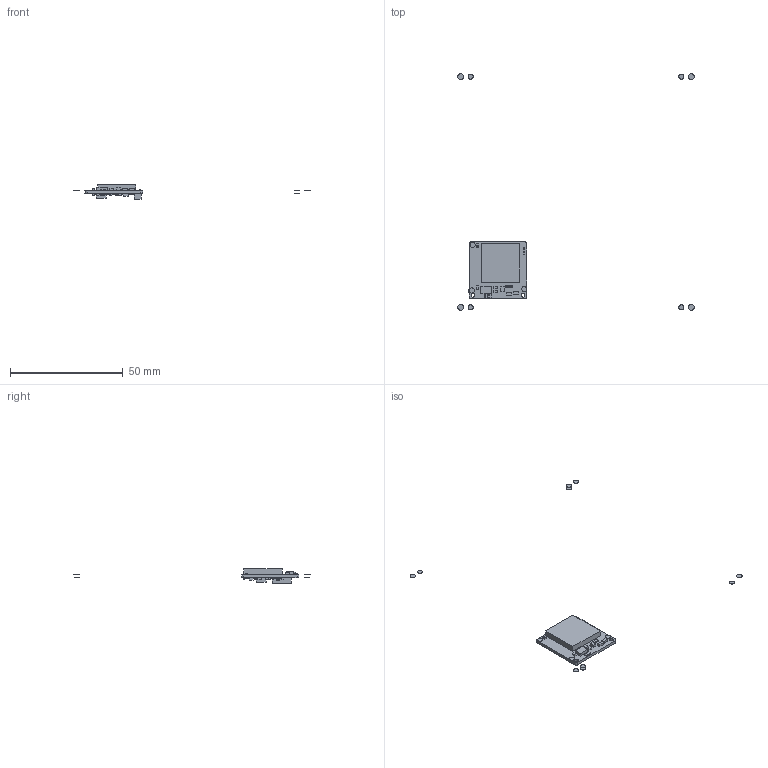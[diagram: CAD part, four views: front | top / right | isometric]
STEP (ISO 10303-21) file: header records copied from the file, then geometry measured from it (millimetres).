
FILE_DESCRIPTION(/* description */ ('PCB Design'),/* implementation_level */ '2;1');
FILE_NAME(/* name */ 'JnD_Hailo_R1',/* time_stamp */ '2023-11-13T16:44:10+02:00',/* author */ ('Roy K'),/* organization */ (''),/* preprocessor_version */ 'ST-DEVELOPER v16',/* originating_system */ 'allegro_17.2S083',/* authorisation */ '');
FILE_SCHEMA (('AUTOMOTIVE_DESIGN { 1 0 10303 214 3 1 1 }'));
Length unit declared in the file: millimetre
Products named in the file (20): JND_HAILO_R1; BOARD_OUTLINE; COMPONENTS; FID40; MU98K130; SOT-323; DF40HC-30DS-0P4V; IND_0402_NXP; DDC0006A; XAL4020; FBGA400_17X17_08; L0402; C0805; TPAD_020; USP-11B01; R0402; C0402; C0603; C0201; KC2520_2P5X2P0
Assembly tree (178 placements, depth 3):
  JND_HAILO_R1
    BOARD_OUTLINE
    COMPONENTS
      FID40  x12
      MU98K130  x4
      SOT-323  x2
      DF40HC-30DS-0P4V
      IND_0402_NXP  x6
      DDC0006A
      XAL4020
      FBGA400_17X17_08
      L0402
      C0805  x2
      TPAD_020
      USP-11B01
      R0402  x31
      C0402  x32
      C0603  x5
      C0201  x74
      KC2520_2P5X2P0
Bounding box: 104.72 x 104.72 x 6.49 mm (x, y, z)
Surface area: 2955.9 mm2 (no closed solid volume)
Topology: 0 solids, 177 shells, 1041 faces, 2241 edges, 1374 vertices
Faces by surface type: plane 997, cylinder 44
Entity records: 4818 total; most frequent: DIRECTION 644, AXIS2_PLACEMENT_3D 503, ORIENTED_EDGE 474, CARTESIAN_POINT 425, EDGE_CURVE 258, VECTOR 226, LINE 226, VERTEX_POINT 200
